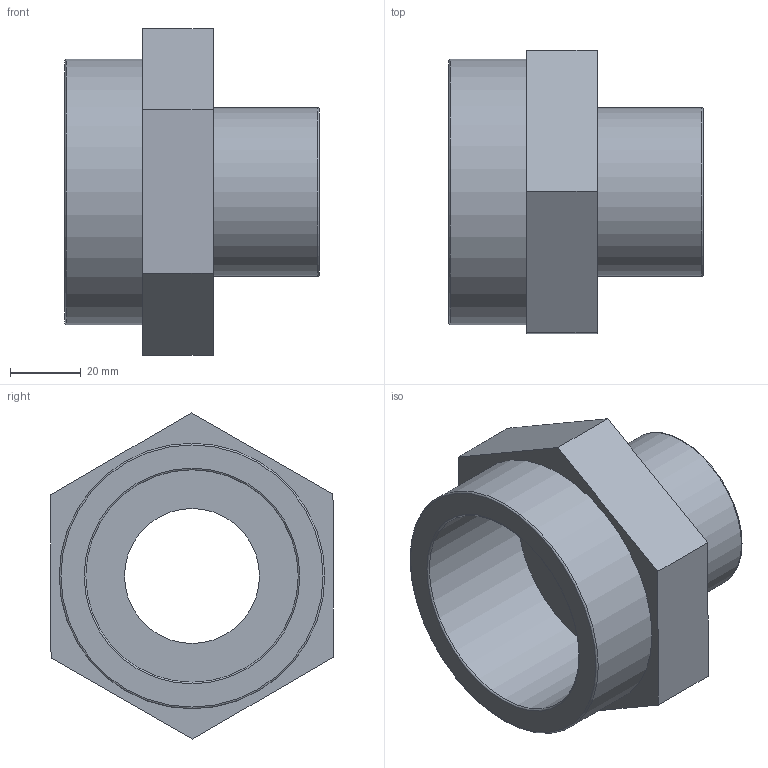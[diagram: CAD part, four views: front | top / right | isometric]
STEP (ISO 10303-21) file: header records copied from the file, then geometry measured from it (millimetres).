
FILE_DESCRIPTION(/* description */ ('PLASSON THR. REDUCING NIPPLE 2.1/2"-1.1/2" PVC'),/* implementation_level */ '2;1');
FILE_NAME(/* name */ 'C:\Dropbox\KIMPROJECTS-Inventor\99-16-3568-Processing\PVC Catalog 2017\051601\051601025015.ipt.stp',/* time_stamp */ '2017-12-07T16:01:02+02:00',/* author */ ('KIM'),/* organization */ (''),/* preprocessor_version */ 'ST-DEVELOPER v15.6',/* originating_system */ 'Autodesk Inventor 2015',/* authorisation */ '');
FILE_SCHEMA (('AP203_CONFIGURATION_CONTROLLED_3D_DESIGN_OF_MECHANICAL_PARTS_AND_ASSEMBLIES_MIM_LF','AUTOMOTIVE_DESIGN { 1 0 10303 214 3 1 1 }'));
Length unit declared in the file: millimetre
Products named in the file (1): 051601025015
Bounding box: 72 x 80.17 x 92.38 mm (x, y, z)
Volume: 118691.3 mm3; surface area: 35017 mm2
Topology: 1 solids, 1 shells, 19 faces, 38 edges, 24 vertices
Faces by surface type: plane 11, torus 4, cylinder 4
Full cylindrical faces by diameter (mm): 38.242 x1, 47.803 x1, 60.147 x1, 75.184 x1
Entity records: 480 total; most frequent: DIRECTION 82, CARTESIAN_POINT 74, ORIENTED_EDGE 60, EDGE_LOOP 32, AXIS2_PLACEMENT_3D 32, EDGE_CURVE 30, VERTEX_POINT 24, FACE_OUTER_BOUND 19
